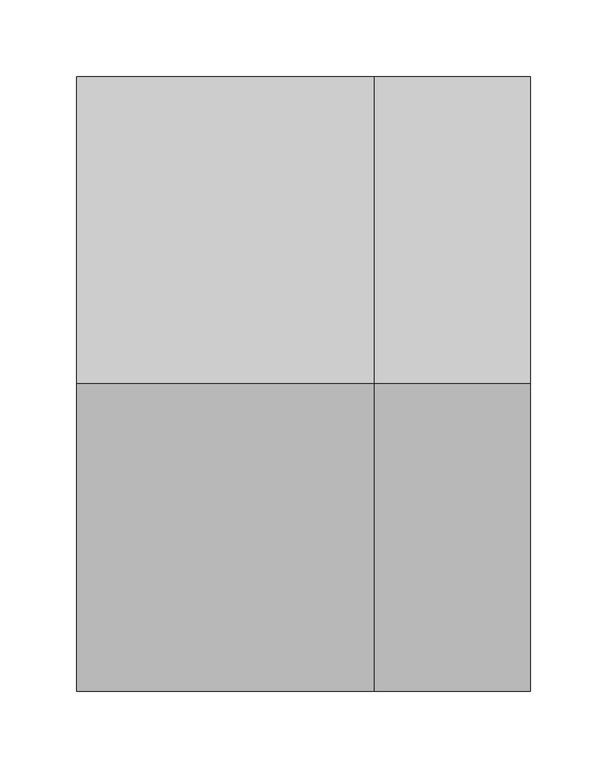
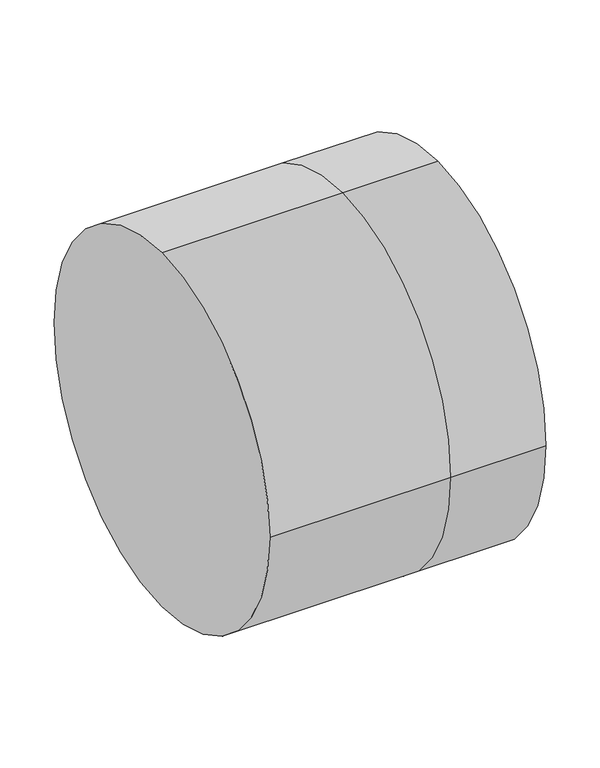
"""IFC4 building model written with IfcOpenShell, lengths in millimetres: duct fitting geometry, M_Encaixe de duto redondo : Padrão."""

from ifc_helpers import new_model, si_unit, frame, origin, place, context, project, spatial, circle_curve, source, transform, mapped, element, save
from ifc_brep_helpers import plane_surface, cylinder_surface, advanced_brep


def duct_fitting_2eb95573(model_context):
    return source(origin(), model_context, "Body", "AdvancedBrep", [
        advanced_brep(
        [(101.6, 0.0, 200.0), (101.6, -200.0, 0.0), (101.6, 0.0, -200.0), (101.6, 200.0, 0.0), (0.0, 0.0, 200.0), (0.0, -200.0, 0.0), (0.0, 0.0, -200.0), (0.0, 200.0, 0.0), (-193.904, 0.0, 200.0), (-193.904, 200.0, 0.0), (-193.904, 0.0, -200.0), (-193.904, -200.0, 0.0)],
        [
            (0, 1, circle_curve(frame((101.6, 0.0, 0.0), z_axis=(1.0, 0.0, 0.0), x_axis=(0.0, -1.0, 0.0)), 200.0)),
            (1, 2, circle_curve(frame((101.6, 0.0, 0.0), z_axis=(1.0, 0.0, 0.0), x_axis=(0.0, -1.0, 0.0)), 200.0)),
            (2, 3, circle_curve(frame((101.6, 0.0, 0.0), z_axis=(1.0, 0.0, 0.0), x_axis=(0.0, -1.0, 0.0)), 200.0)),
            (3, 0, circle_curve(frame((101.6, 0.0, 0.0), z_axis=(1.0, 0.0, 0.0), x_axis=(0.0, -1.0, 0.0)), 200.0)),
            (0, 4),
            (4, 5, circle_curve(frame((0.0, 0.0, 0.0), z_axis=(1.0, 0.0, 0.0), x_axis=(0.0, -1.0, 0.0)), 200.0)),
            (5, 1),
            (5, 6, circle_curve(frame((0.0, 0.0, 0.0), z_axis=(1.0, 0.0, 0.0), x_axis=(0.0, -1.0, 0.0)), 200.0)),
            (6, 2),
            (6, 7, circle_curve(frame((0.0, 0.0, 0.0), z_axis=(1.0, 0.0, 0.0), x_axis=(0.0, -1.0, 0.0)), 200.0)),
            (7, 3),
            (7, 4, circle_curve(frame((0.0, 0.0, 0.0), z_axis=(1.0, 0.0, 0.0), x_axis=(0.0, -1.0, 0.0)), 200.0)),
            (8, 9, circle_curve(frame((-193.904, 0.0, 0.0), z_axis=(-1.0, 0.0, 0.0), x_axis=(0.0, -1.0, 0.0)), 200.0)),
            (9, 10, circle_curve(frame((-193.904, 0.0, 0.0), z_axis=(-1.0, 0.0, 0.0), x_axis=(0.0, -1.0, 0.0)), 200.0)),
            (10, 11, circle_curve(frame((-193.904, 0.0, 0.0), z_axis=(-1.0, 0.0, 0.0), x_axis=(0.0, -1.0, 0.0)), 200.0)),
            (11, 8, circle_curve(frame((-193.904, 0.0, 0.0), z_axis=(-1.0, 0.0, 0.0), x_axis=(0.0, -1.0, 0.0)), 200.0)),
            (11, 5),
            (4, 8),
            (10, 6),
            (9, 7),
        ],
        [
            plane_surface(frame((101.6, 0.0, 0.0), z_axis=(1.0, 0.0, 0.0), x_axis=(0.0, 0.0, 1.0))),
            cylinder_surface(frame((0.0, 0.0, 0.0), z_axis=(-1.0, 0.0, 0.0), x_axis=(0.0, -1.0, 0.0)), 200.0),
            plane_surface(frame((-193.904, 0.0, 0.0), z_axis=(-1.0, 0.0, 0.0), x_axis=(0.0, 0.0, 1.0))),
            cylinder_surface(frame((-193.904, 0.0, 0.0), z_axis=(-1.0, 0.0, 0.0), x_axis=(0.0, -1.0, 0.0)), 200.0),
        ],
        [
            (0, [[1, 2, 3, 4]]),
            (1, [[5, 6, 7, -1]]),
            (1, [[-7, 8, 9, -2]]),
            (1, [[-9, 10, 11, -3]]),
            (1, [[-11, 12, -5, -4]]),
            (2, [[13, 14, 15, 16]]),
            (3, [[17, -6, 18, -16]]),
            (3, [[19, -8, -17, -15]]),
            (3, [[20, -10, -19, -14]]),
            (3, [[-18, -12, -20, -13]]),
        ],
    ),
    ])


if __name__ == "__main__":
    model = new_model("IFC4")
    model_context = context("Model", 3, world=origin())
    ifc_project = project(units=[si_unit("LENGTHUNIT", "METRE", prefix="MILLI")], contexts=[model_context])
    site = spatial("IfcSite", under=ifc_project)
    building = spatial("IfcBuilding", under=site)
    placement = place(None, origin())
    duct_fitting_shape = duct_fitting_2eb95573(model_context)
    element("IfcDuctFitting", 1, ObjectType="M_Encaixe de duto redondo : Padrão", at=placement, inside=building, context=model_context, shape_type="MappedRepresentation", body=[
        mapped(duct_fitting_shape, transform((0.0, 0.0, 0.0), x_axis=(1.0, 0.0, 0.0), y_axis=(0.0, 1.0, 0.0), z_axis=(0.0, 0.0, 1.0))),
    ])
    save(model, "model.ifc")
